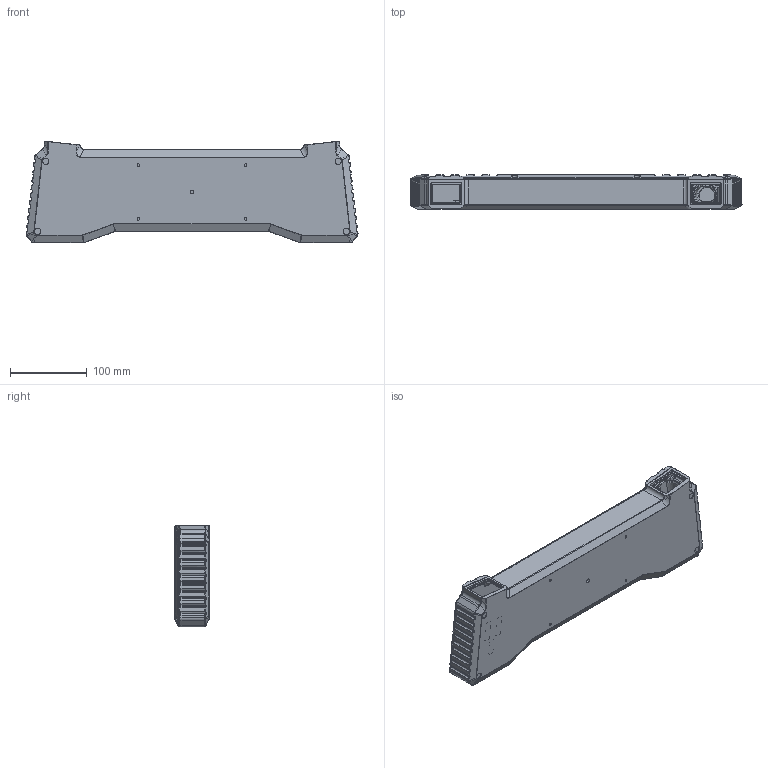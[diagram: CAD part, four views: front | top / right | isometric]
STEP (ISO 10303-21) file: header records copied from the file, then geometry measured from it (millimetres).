
FILE_DESCRIPTION((''),'2;1');
FILE_NAME('DFX1805-AJIJIA_ASM','2024-08-22T',('Ҧ'),(''),'PRO/ENGINEER BY PARAMETRIC TECHNOLOGY CORPORATION, 2010280','PRO/ENGINEER BY PARAMETRIC TECHNOLOGY CORPORATION, 2010280','');
FILE_SCHEMA(('CONFIG_CONTROL_DESIGN'));
Products named in the file (7): 1805-A; 1805A-BEIBAN; 809-43; 808HUAN; 809-KA; 1805A; DFX1805-AJIJIA_ASM
Assembly tree (6 placements, depth 2):
  DFX1805-AJIJIA_ASM
    1805-A
    1805A-BEIBAN
    809-43
    808HUAN
    809-KA
    1805A
Bounding box: 433.7 x 44.5 x 132.98 mm (x, y, z)
Volume: 468968.5 mm3; surface area: 313978 mm2
Topology: 6 solids, 6 shells, 3342 faces, 7983 edges, 4735 vertices
Faces by surface type: cylinder 1066, plane 959, bspline 655, cone 564, torus 92, sphere 6
Entity records: 123542 total; most frequent: CARTESIAN_POINT 49858, ORIENTED_EDGE 15958, DIRECTION 14601, EDGE_CURVE 7979, AXIS2_PLACEMENT_3D 5419, VERTEX_POINT 4735, VECTOR 3763, LINE 3763
